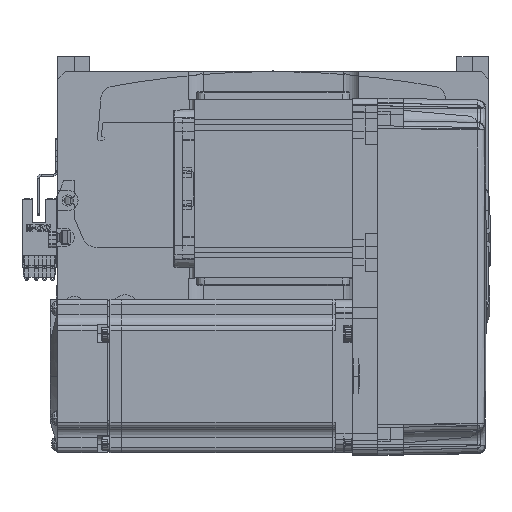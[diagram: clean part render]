
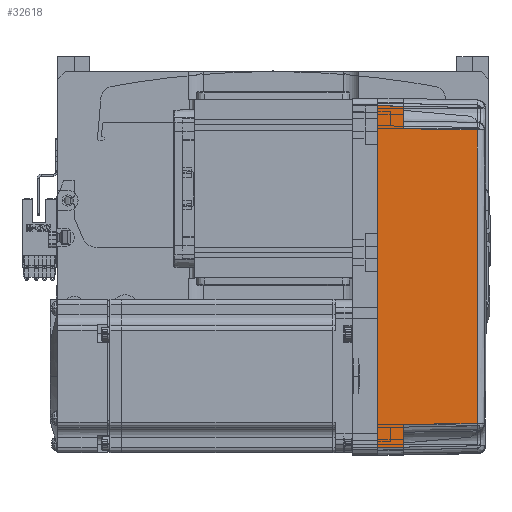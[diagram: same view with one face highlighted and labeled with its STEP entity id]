
A CAD part, top view. The second image highlights one B-rep face of the part: STEP entity #32618.
In plain terms, the highlighted planar face has unit normal (0.018, 0, 1) as drawn and (0, 1, 0.017) by its records, which use the part's own axes.
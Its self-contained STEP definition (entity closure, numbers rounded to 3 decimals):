
#7107 = VERTEX_POINT ( 'NONE', #17483 ) ;
#8158 = VERTEX_POINT ( 'NONE', #49991 ) ;
#9331 = CARTESIAN_POINT ( 'NONE',  ( 67.001, 36.001, -0.052 ) ) ;
#11512 = DIRECTION ( 'NONE',  ( 0.017, -0.017, 1. ) ) ;
#13661 = AXIS2_PLACEMENT_3D ( 'NONE', #63629, #52404, #53106 ) ;
#14180 = EDGE_CURVE ( 'NONE', #15749, #23250, #18525, .T. ) ;
#15370 = EDGE_CURVE ( 'NONE', #22086, #15749, #42383, .T. ) ;
#15749 = VERTEX_POINT ( 'NONE', #54492 ) ;
#16347 = CARTESIAN_POINT ( 'NONE',  ( 70., 35.825, 10. ) ) ;
#16453 = EDGE_CURVE ( 'NONE', #19608, #22086, #48413, .T. ) ;
#16489 = CARTESIAN_POINT ( 'NONE',  ( 0., 36., 0. ) ) ;
#16940 = DIRECTION ( 'NONE',  ( 1., 0., 0. ) ) ;
#17042 = DIRECTION ( 'NONE',  ( 0.017, 0.017, -1. ) ) ;
#17483 = CARTESIAN_POINT ( 'NONE',  ( -58., 35.825, 10. ) ) ;
#17587 = CARTESIAN_POINT ( 'NONE',  ( 57.495, 35.32, 38.985 ) ) ;
#17832 = ORIENTED_EDGE ( 'NONE', *, *, #53738, .T. ) ;
#17908 = VECTOR ( 'NONE', #45521, 1000. ) ;
#18525 = LINE ( 'NONE', #22953, #50127 ) ;
#19608 = VERTEX_POINT ( 'NONE', #40218 ) ;
#20862 = EDGE_CURVE ( 'NONE', #43716, #64856, #34545, .T. ) ;
#20902 = DIRECTION ( 'NONE',  ( 1., 0., 0. ) ) ;
#22086 = VERTEX_POINT ( 'NONE', #58107 ) ;
#22872 = CARTESIAN_POINT ( 'NONE',  ( 19.165, 35.316, 39.181 ) ) ;
#22953 = CARTESIAN_POINT ( 'NONE',  ( 70., 35.825, 10. ) ) ;
#22987 = VECTOR ( 'NONE', #20902, 1000. ) ;
#23250 = VERTEX_POINT ( 'NONE', #64843 ) ;
#24672 = LINE ( 'NONE', #16347, #22987 ) ;
#24925 = PLANE ( 'NONE',  #13661 ) ;
#25872 = ORIENTED_EDGE ( 'NONE', *, *, #15370, .T. ) ;
#26896 = VECTOR ( 'NONE', #37048, 1000. ) ;
#27824 = CARTESIAN_POINT ( 'NONE',  ( 57.495, 35.32, 38.985 ) ) ;
#28572 = CARTESIAN_POINT ( 'NONE',  ( -67., 36., 0. ) ) ;
#31450 = CARTESIAN_POINT ( 'NONE',  ( -67., 36., 0. ) ) ;
#32618 = ADVANCED_FACE ( 'NONE', ( #48827 ), #24925, .T. ) ;
#33578 = EDGE_CURVE ( 'NONE', #7107, #19608, #55551, .T. ) ;
#34545 = LINE ( 'NONE', #16489, #67901 ) ;
#36674 = ORIENTED_EDGE ( 'NONE', *, *, #33578, .T. ) ;
#37048 = DIRECTION ( 'NONE',  ( -0.017, -0.017, 1. ) ) ;
#38772 = CARTESIAN_POINT ( 'NONE',  ( -58., 35.825, 10. ) ) ;
#39102 = CARTESIAN_POINT ( 'NONE',  ( -19.165, 35.316, 39.181 ) ) ;
#39431 = DIRECTION ( 'NONE',  ( 1., 0., 0. ) ) ;
#40218 = CARTESIAN_POINT ( 'NONE',  ( -57.495, 35.32, 38.985 ) ) ;
#42035 = ORIENTED_EDGE ( 'NONE', *, *, #69229, .T. ) ;
#42383 = LINE ( 'NONE', #27824, #70671 ) ;
#43119 = EDGE_LOOP ( 'NONE', ( #42035, #17832, #36674, #68841, #25872, #63251, #67345, #63388 ) ) ;
#43716 = VERTEX_POINT ( 'NONE', #31450 ) ;
#44009 = CARTESIAN_POINT ( 'NONE',  ( 67., 36., 0. ) ) ;
#45269 = VECTOR ( 'NONE', #11512, 1000. ) ;
#45521 = DIRECTION ( 'NONE',  ( 0.017, -0.017, 1. ) ) ;
#48413 = B_SPLINE_CURVE_WITH_KNOTS ( 'NONE', 3,
 ( #66373, #39102, #22872, #17587 ),
 .UNSPECIFIED., .F., .F.,
 ( 4, 4 ),
 ( 0., 1. ),
 .UNSPECIFIED. ) ;
#48827 = FACE_OUTER_BOUND ( 'NONE', #43119, .T. ) ;
#49941 = LINE ( 'NONE', #9331, #26896 ) ;
#49991 = CARTESIAN_POINT ( 'NONE',  ( -66.826, 35.825, 10. ) ) ;
#50127 = VECTOR ( 'NONE', #39431, 1000. ) ;
#52404 = DIRECTION ( 'NONE',  ( 0., 1., 0.017 ) ) ;
#53106 = DIRECTION ( 'NONE',  ( 0., -0.017, 1. ) ) ;
#53738 = EDGE_CURVE ( 'NONE', #8158, #7107, #24672, .T. ) ;
#54492 = CARTESIAN_POINT ( 'NONE',  ( 58., 35.825, 10. ) ) ;
#55551 = LINE ( 'NONE', #38772, #45269 ) ;
#56781 = EDGE_CURVE ( 'NONE', #64856, #23250, #49941, .T. ) ;
#58107 = CARTESIAN_POINT ( 'NONE',  ( 57.495, 35.32, 38.985 ) ) ;
#63212 = LINE ( 'NONE', #28572, #17908 ) ;
#63251 = ORIENTED_EDGE ( 'NONE', *, *, #14180, .T. ) ;
#63388 = ORIENTED_EDGE ( 'NONE', *, *, #20862, .F. ) ;
#63629 = CARTESIAN_POINT ( 'NONE',  ( 70., 36., 0. ) ) ;
#64843 = CARTESIAN_POINT ( 'NONE',  ( 66.826, 35.825, 10. ) ) ;
#64856 = VERTEX_POINT ( 'NONE', #44009 ) ;
#66373 = CARTESIAN_POINT ( 'NONE',  ( -57.495, 35.32, 38.985 ) ) ;
#67345 = ORIENTED_EDGE ( 'NONE', *, *, #56781, .F. ) ;
#67901 = VECTOR ( 'NONE', #16940, 1000. ) ;
#68841 = ORIENTED_EDGE ( 'NONE', *, *, #16453, .T. ) ;
#69229 = EDGE_CURVE ( 'NONE', #43716, #8158, #63212, .T. ) ;
#70671 = VECTOR ( 'NONE', #17042, 1000. ) ;
